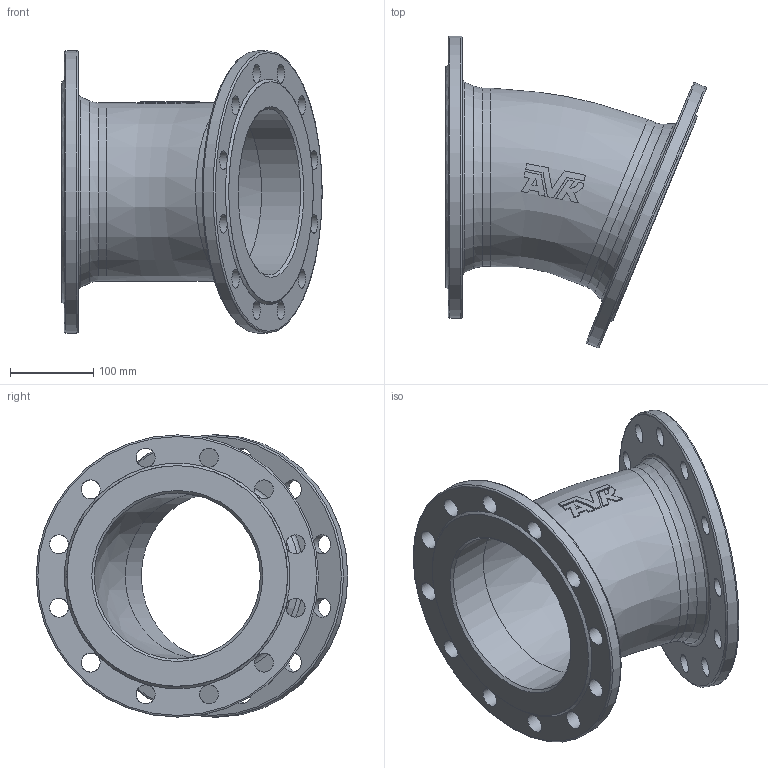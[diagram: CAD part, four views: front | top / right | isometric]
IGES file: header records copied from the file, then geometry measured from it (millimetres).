
Start section: SolidWorks IGES file using analytic representation for surfaces
Global section: file name: \\avksan2\techshare\PBM outline export from Enovia\O_712_0210_DN200_1X_REV01.igs; native system: SolidWorks 2022; preprocessor: SolidWorks 2022; author: pbm; date: 240815.140845; units: millimetre
Bounding box: 313.7 x 375.43 x 340 mm (x, y, z)
Surface area: 573016.6 mm2 (no closed solid volume)
Topology: 0 solids, 0 shells, 93 faces, 497 edges, 427 vertices
Faces by surface type: revolution 52, bspline 41
